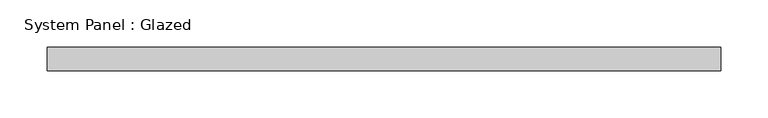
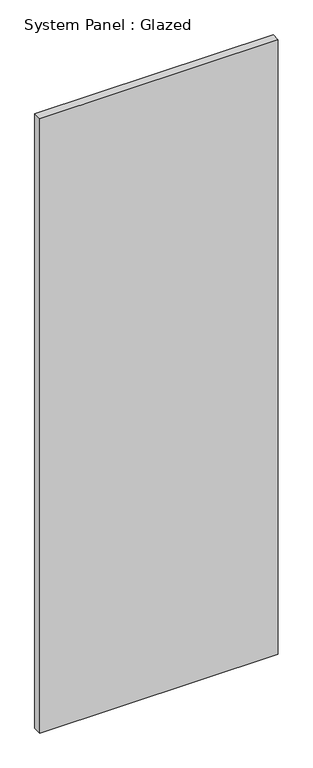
"""IFC4 building model written with IfcOpenShell, lengths in millimetres: plate geometry, System Panel : Glazed."""

from ifc_helpers import new_model, si_unit, origin, origin_with_axes, place, context, project, spatial, polyline, outline, extrude, source, transform, mapped, element, save


def system_panel_glazed_e5b8c45c(model_context):
    return source(origin(), model_context, "Body", "SweptSolid", [
        extrude(outline(polyline([(358.3658158, -12.5), (-358.3658158, -12.5), (-358.3658158, 12.5), (358.3658158, 12.5), (358.3658158, -12.5)])), origin_with_axes(), (0.0, 0.0, 1.0), 1950.0),
    ])


if __name__ == "__main__":
    model = new_model("IFC4")
    model_context = context("Model", 3, world=origin())
    ifc_project = project(units=[si_unit("LENGTHUNIT", "METRE", prefix="MILLI")], contexts=[model_context])
    site = spatial("IfcSite", under=ifc_project)
    building = spatial("IfcBuilding", under=site)
    placement = place(None, origin())
    system_panel_glazed_shape = system_panel_glazed_e5b8c45c(model_context)
    element("IfcPlate", 1, ObjectType="System Panel : Glazed", at=placement, inside=building, context=model_context, shape_type="MappedRepresentation", body=[
        mapped(system_panel_glazed_shape, transform((0.0, 0.0, 0.0), x_axis=(1.0, 0.0, 0.0), y_axis=(0.0, 1.0, 0.0), z_axis=(0.0, 0.0, 1.0))),
    ])
    save(model, "model.ifc")
